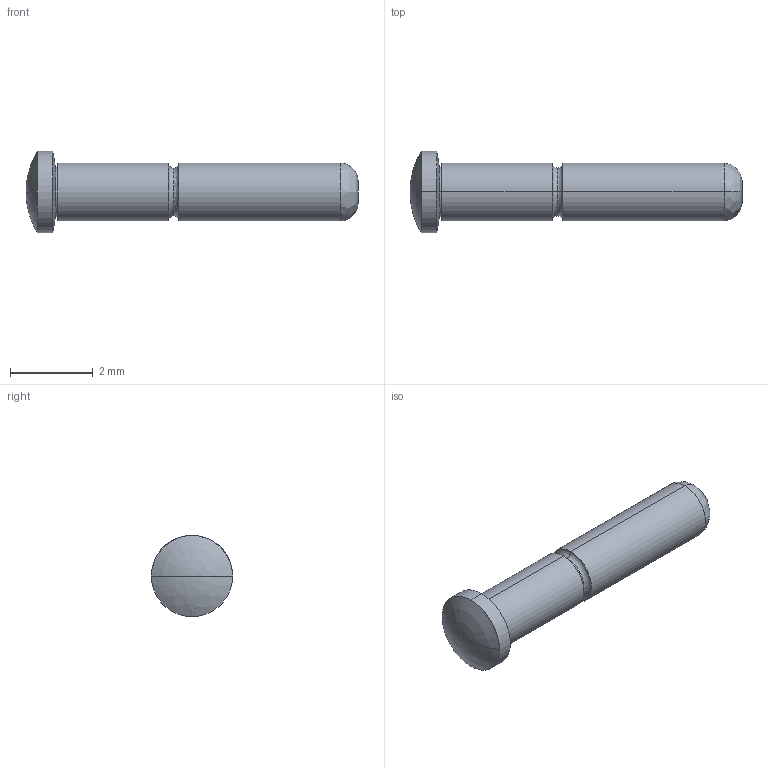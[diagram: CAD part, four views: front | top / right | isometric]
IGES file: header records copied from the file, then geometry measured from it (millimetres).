
Start section: SolidWorks IGES file using analytic representation for surfaces
Global section: file name: Z:\probe solid model mockups\Solidworks models\IGES Files\HPA-64\HPA-64-3 Full.IGS; native system: SolidWorks 2006 by SolidWorks Corporation; preprocessor: SolidWorks 2006 by SolidWorks Corporation; author: tsakatani; date: 071220.100206; units: inch
Bounding box: 8 x 1.96 x 1.96 mm (x, y, z)
Surface area: 40.9 mm2 (no closed solid volume)
Topology: 0 solids, 0 shells, 20 faces, 124 edges, 122 vertices
Faces by surface type: revolution 12, bspline 8
